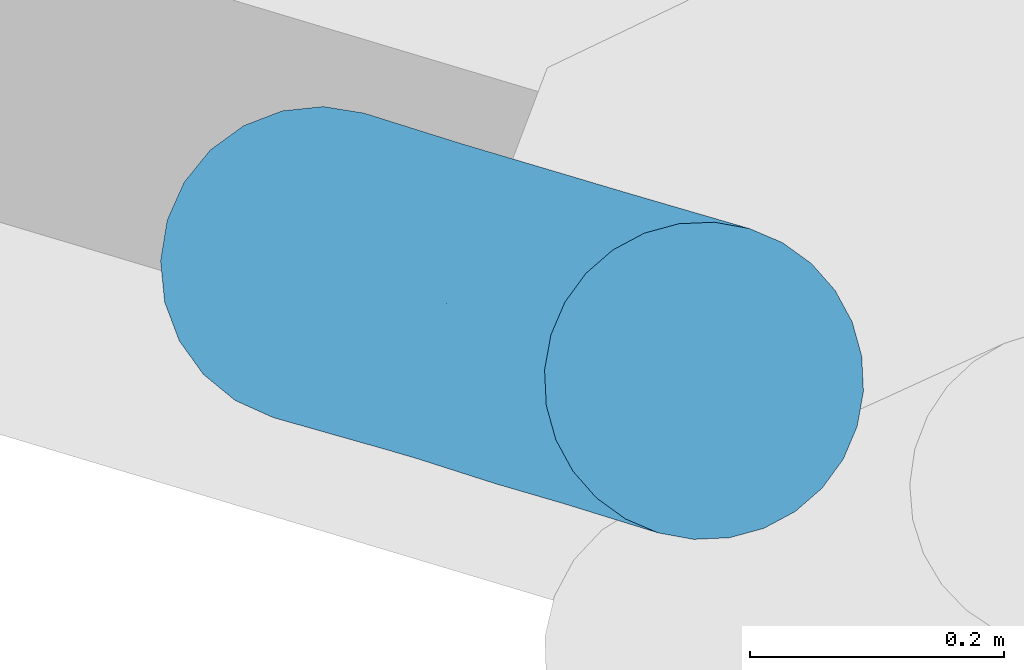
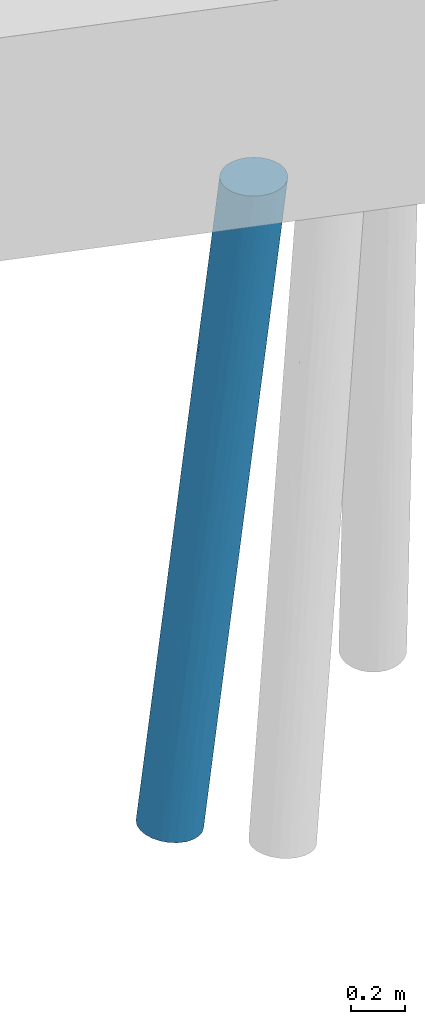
# One storey, part 5 of 46: 1 pile.
"""IFC2X3 building model written with IfcOpenShell, lengths in millimetres."""

from ifc_helpers import new_model, entity, si_unit, converted_unit, derived_unit, direction, frame, origin, place, context, subcontext, project, spatial, faceted_brep, source, transform, mapped, material, type_object, type_shapes, element, save


model = new_model("IFC2X3")

# Units and contexts
model_context = context("Model", 3, precision=0.01, world=origin(), true_north=direction((6.123233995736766e-17, 1.0)))
body_context = subcontext(model_context, "Body", "Model", "MODEL_VIEW")
ifc_project = project(units=[si_unit("LENGTHUNIT", "METRE", prefix="MILLI"), converted_unit("PLANEANGLEUNIT", "DEGREE", entity("IfcPlaneAngleMeasure", 0.017453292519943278), si_unit("PLANEANGLEUNIT", "RADIAN"), dimensions=[0, 0, 0, 0, 0, 0, 0]), si_unit("AREAUNIT", "SQUARE_METRE"), derived_unit("THERMALTRANSMITTANCEUNIT", [(si_unit("MASSUNIT", "GRAM", prefix="KILO"), 1), (si_unit("THERMODYNAMICTEMPERATUREUNIT", "KELVIN"), -1), (si_unit("TIMEUNIT", "SECOND"), -3)])], contexts=[model_context])

# Site, building, storey
site_placement = place(None, frame((-72937.88054949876, 11621.45624098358, 0.0), z_axis=(0.0, 0.0, 1.0), x_axis=(0.9346418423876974, -0.35559053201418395, 0.0)))
site = spatial("IfcSite", under=ifc_project, at=site_placement, Name="Default", CompositionType="ELEMENT")
building_placement = place(site_placement, origin())
building = spatial("IfcBuilding", under=site, at=building_placement, CompositionType="ELEMENT")
storey_placement = place(building_placement, origin())
storey = spatial("IfcBuildingStorey", under=building, at=storey_placement, Name="00 begane grond", CompositionType="ELEMENT", Elevation=0.0)

# Pile
ifc_material = material(Name="beton_gewapend_prefab-element_c45/55")
type_product = type_object("IfcTypeProduct", Name="Type 01", material=ifc_material)
shared_shape = source(origin(), body_context, "Body", "Brep", [
    faceted_brep([(124.838162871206, -27.815116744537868, -1150.0), (115.53639022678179, -54.2354673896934, -1150.0), (72.36643070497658, -41.239861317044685, -1587.2480771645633), (-111.09194578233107, -54.23546738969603, -1150.0), (-165.1894529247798, -41.33003827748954, -1588.444859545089), (-182.07875772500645, -65.1457063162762, -1842.6627389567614), (-30.14575159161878, -64.60051474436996, -2410.3553271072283), (32.98344934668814, -64.94314047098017, -1840.3127773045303), (15.031797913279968, -88.27496307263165, -1836.1297740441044), (41.77006032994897, 0.0, -1925.9925992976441), (100.55257203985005, -77.9362252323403, -1150.0), (80.6380595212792, -97.7289353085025, -1150.0), (-180.54618184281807, -99.16916754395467, -3483.986786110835), (-108.1734310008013, -106.74566752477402, -2732.5343267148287), (-175.6519081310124, -115.48494156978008, -3184.0354063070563), (-42.91884640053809, -117.90464735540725, -1932.203812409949), (56.79144948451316, -112.62110848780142, -1150.0), (30.20851053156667, -121.8659890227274, -1150.0), (-120.39371842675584, -27.81511674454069, -1150.0), (-242.98263969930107, -88.62069146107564, -2558.5627355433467), (-162.25875578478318, -88.50075404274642, -1830.9574517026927), (-245.70385641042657, -64.88368548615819, -2413.843724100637), (-194.4421984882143, -32.35238063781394, -4013.333582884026), (-133.56769714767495, -28.49629953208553, -3474.2266886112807), (-151.93048965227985, -53.33845094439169, -3561.073967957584), (12.222467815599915, -106.275938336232, -1655.8961403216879), (-23.42762089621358, -124.20079095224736, -1508.642990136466), (-80.64748703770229, -124.2366812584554, -1770.9263967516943), (-73.06982999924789, -124.27812918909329, -1949.101189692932), (-265.024992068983, -123.93060767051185, -3407.479310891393), (-314.4444444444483, -125.0, -4000.0), (-240.21076201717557, -123.93060767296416, -3479.642475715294), (-190.20897761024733, 0.0, -4013.803940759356), (-117.33081280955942, 0.0, -3357.900457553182), (-25.764066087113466, -121.86598902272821, -1150.0), (2.2222222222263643, -125.0, -1150.0), (-317.9689709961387, -23.60182842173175, -2920.157783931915), (-375.26894382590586, -28.366113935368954, -3445.0277270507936), (-326.96702366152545, -47.83542903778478, -3066.9425894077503), (-73.70805836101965, -23.187811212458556, -2945.6497765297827), (16.085837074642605, -41.18767244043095, -2093.938466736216), (-39.92708990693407, -41.47720200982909, -2597.136214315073), (-183.66520352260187, -123.01104339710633, -3024.1067526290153), (-196.28435151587, -123.47165352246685, -2760.09510592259), (-252.3267110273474, -108.25317547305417, -4006.901970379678), (-226.59670338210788, -88.38834764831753, -4009.7608601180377), (-206.8533741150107, -62.49999999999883, -4011.9545633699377), (-148.27550792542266, -76.09517863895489, -3402.494577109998), (-119.74622127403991, -106.37235269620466, -1653.229951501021), (-99.40312932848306, -118.21391771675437, -1696.7443345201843), (-52.347005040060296, -112.62110848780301, -1150.0), (-238.2779479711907, -106.2597512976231, -2718.3665211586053), (-185.92128902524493, -102.46025049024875, -2194.904710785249), (-42.820885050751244, -102.58547775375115, -2202.1491422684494), (-156.2252162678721, -118.09364807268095, -2204.9892079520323), (-264.72929865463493, -115.48494155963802, -3119.3954545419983), (-319.0271104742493, -115.48494156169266, -3608.075760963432), (-76.19361507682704, -97.72893530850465, -1150.0), (-96.10812759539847, -77.93622523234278, -1150.0), (-44.45199380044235, 0.0, -2701.9910864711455), (-1.3402226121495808, 0.0, -2313.985145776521), (-292.9202820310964, -72.79893776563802, -2886.1326580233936), (-292.6922084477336, -91.63383624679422, -3034.349570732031), (-282.2899395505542, -120.74072828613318, -4003.5727227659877), (-227.3188222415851, -115.48494156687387, -3649.037633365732), (-209.76851175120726, 0.0, -1925.9934634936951), (-221.60043037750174, -41.38232604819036, -2096.3096577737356), (-376.56217786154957, -108.25317547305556, -3993.0980296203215), (-346.59894933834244, -120.74072828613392, -3996.4272772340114), (-66.21715172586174, -88.15377228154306, -2568.4634430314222), (-129.97696806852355, -118.32629651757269, -2704.7019880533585), (-123.5470158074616, 0.0, -1150.0), (-377.52744650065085, -52.97984274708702, -3542.5215927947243), (-345.70385271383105, -76.09517862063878, -3383.3196685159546), (-275.8885685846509, -42.22399193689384, -2587.6075033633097), (-422.0355147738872, -62.50000000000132, -3988.0454366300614), (-402.29218550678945, -88.38834764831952, -3990.239139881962), (-331.8470727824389, -99.16916753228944, -3467.5525053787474), (-132.4434459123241, -124.68323586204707, -2281.458802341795), (-96.52658231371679, -47.8354290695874, -3084.4998642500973), (-89.11715414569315, -71.65077909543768, -2899.5648185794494), (127.99146025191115, 0.0, -1150.0), (-252.87925972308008, 0.0, -2313.9901952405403), (-122.93481462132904, -90.89446365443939, -3053.447507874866), (-434.4466904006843, -32.352380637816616, -3986.6664171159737), (-438.679911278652, 0.0, -3986.1960592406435), (-141.73877836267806, -124.16072599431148, -2576.5969257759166), (-210.06991733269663, -117.23436667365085, -2667.8819222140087), (-295.9900076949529, 0.0, -2701.9869269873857), (-367.3349594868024, 0.0, -3344.0914931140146), (124.83816287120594, 27.815116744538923, -1150.0), (115.53639022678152, 54.23546738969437, -1150.0), (100.55257203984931, 77.93622523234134, -1150.0), (80.63805952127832, 97.7289353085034, -1150.0), (56.79144948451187, 112.62110848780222, -1150.0), (30.20851053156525, 121.86598902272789, -1150.0), (2.22222222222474, 125.0, -1150.0), (-25.76406608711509, 121.86598902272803, -1150.0), (-52.34700504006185, 112.62110848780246, -1150.0), (-76.1936150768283, 97.72893530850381, -1150.0), (-96.10812759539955, 77.93622523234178, -1150.0), (-111.09194578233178, 54.23546738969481, -1150.0), (-120.39371842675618, 27.815116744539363, -1150.0), (-96.52658225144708, 47.83542901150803, -3084.4998639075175), (-133.5676976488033, 28.496299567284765, -3474.2266930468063), (-151.9304895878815, 53.338451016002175, -3561.073967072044), (-176.7825211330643, 87.58614607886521, -1953.453255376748), (-126.78568187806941, 88.44799753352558, -1511.2211246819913), (-140.32328536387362, 105.94191584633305, -1832.1538289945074), (-185.53475823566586, 41.3488976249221, -1771.6124540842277), (-98.5233768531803, 124.24251446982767, -1932.2861052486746), (-159.3540506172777, 67.83984168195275, -1653.46778938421), (-221.49211536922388, 66.66107193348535, -2205.8974607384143), (-402.2921855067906, 88.38834764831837, -3990.239139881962), (-352.8086337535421, 76.09517892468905, -3447.262699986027), (-312.10423006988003, 99.16916769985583, -3289.866922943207), (-282.2899395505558, 120.74072828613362, -4003.5727227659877), (-314.44444444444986, 125.0, -4000.0), (-235.4135805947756, 123.93060766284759, -3436.467843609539), (-362.94366171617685, 26.27355326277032, -3329.855963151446), (-328.2998352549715, 47.83542988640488, -3078.9378969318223), (-384.2243809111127, 47.83542945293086, -3582.258806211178), (-376.562177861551, 108.25317547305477, -3993.0980296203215), (-180.54618171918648, 99.16916751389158, -3483.9867853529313), (-148.27550783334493, 76.0951785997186, -3402.49457655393), (-226.59670338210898, 88.38834764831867, -4009.7608601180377), (-163.5203657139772, 118.46525212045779, -2280.489865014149), (-104.92272192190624, 118.27912572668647, -1748.143371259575), (-89.11715398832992, 71.6507788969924, -2899.5648184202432), (-39.927089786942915, 41.4772017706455, -2597.1362139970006), (-274.28881423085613, 82.15433137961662, -2785.484682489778), (-221.11735801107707, 106.04994682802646, -2560.8655013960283), (-422.03551477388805, 62.49999999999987, -3988.0454366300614), (-434.4466904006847, 32.35238063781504, -3986.6664171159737), (-180.90977316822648, 122.95522291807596, -3002.0876370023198), (-141.73877802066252, 124.16072595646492, -2576.596925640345), (-129.97696798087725, 118.32629644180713, -2704.701989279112), (-180.2811496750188, 124.04234815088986, -2652.685215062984), (-242.59310629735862, 123.930607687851, -3205.592340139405), (-232.5682987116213, 117.68101498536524, -2881.4778788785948), (-301.7888662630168, 115.48494161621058, -3452.931564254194), (-346.598949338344, 120.7407282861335, -3996.4272772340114), (-206.85337411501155, 62.50000000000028, -4011.9545633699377), (-42.918846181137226, 117.90464729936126, -1932.2038118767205), (-83.49872980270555, 124.18127902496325, -2050.8284888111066), (-29.55955353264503, 124.19873841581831, -1563.9938530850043), (15.03179802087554, 88.27496298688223, -1836.1297738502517), (32.983449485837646, 64.94314037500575, -1840.3127765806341), (-30.14575143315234, 64.60051457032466, -2410.3553266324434), (-42.820884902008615, 102.58547764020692, -2202.149142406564), (12.222467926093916, 106.27593827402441, -1655.89614023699), (-73.70805863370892, 23.18781108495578, -2945.6497792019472), (16.08583725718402, 41.18767230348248, -2093.9384655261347), (72.36643080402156, 41.2398612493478, -1587.2480764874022), (-221.94118502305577, 91.78881553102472, -2399.105716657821), (-108.17343087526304, 106.7456674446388, -2732.5343267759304), (-66.2171515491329, 88.15377212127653, -2568.463442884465), (-122.93481449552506, 90.89446347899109, -3053.447508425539), (-262.27997921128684, 34.77836369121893, -2443.29023072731), (-227.3188223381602, 115.48494155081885, -3649.037634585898), (-252.32671102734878, 108.25317547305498, -4006.901970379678), (-277.036285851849, 61.03344887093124, -2675.5040755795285), (-194.44219848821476, 32.35238063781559, -4013.333582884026), (-312.1095376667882, 26.52940126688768, -2872.8494770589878), (-175.65190824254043, 115.48494153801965, -3184.035408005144)], [[[0, 1, 2]], [[3, 4, 5]], [[6, 7, 8]], [[9, 0, 2]], [[8, 10, 11]], [[12, 13, 14]], [[15, 16, 17]], [[4, 3, 18]], [[19, 20, 21]], [[22, 23, 24]], [[11, 16, 25]], [[26, 27, 28]], [[29, 30, 31]], [[32, 33, 23]], [[10, 8, 7]], [[34, 27, 35]], [[36, 37, 38]], [[33, 39, 23]], [[40, 6, 41]], [[42, 43, 29]], [[44, 45, 12]], [[20, 5, 21]], [[26, 17, 35]], [[45, 46, 47]], [[48, 49, 50]], [[19, 51, 52]], [[53, 25, 15]], [[46, 24, 47]], [[48, 54, 49]], [[55, 56, 29]], [[57, 58, 20]], [[40, 59, 60, 9]], [[61, 62, 19]], [[2, 7, 40]], [[63, 44, 64]], [[65, 66, 4]], [[3, 5, 58]], [[20, 52, 48]], [[67, 68, 56]], [[29, 43, 55]], [[69, 53, 13]], [[13, 70, 14]], [[18, 71, 65]], [[72, 73, 38]], [[68, 30, 29]], [[74, 36, 38]], [[62, 51, 19]], [[38, 61, 74]], [[37, 72, 38]], [[75, 76, 73]], [[76, 77, 73]], [[57, 20, 48]], [[12, 45, 47]], [[6, 40, 7]], [[78, 54, 43]], [[27, 78, 28]], [[79, 41, 80]], [[81, 0, 9]], [[66, 65, 82]], [[41, 39, 59]], [[13, 12, 83]], [[76, 67, 77]], [[84, 37, 85]], [[21, 61, 19]], [[30, 63, 31]], [[31, 42, 29]], [[47, 80, 83]], [[64, 12, 14]], [[56, 77, 67]], [[51, 62, 77]], [[64, 31, 63]], [[14, 70, 42]], [[1, 10, 7]], [[9, 2, 40]], [[7, 2, 1]], [[6, 8, 69]], [[80, 6, 69]], [[6, 80, 41]], [[65, 4, 18]], [[5, 4, 66]], [[5, 66, 21]], [[58, 5, 20]], [[74, 21, 66]], [[61, 38, 73]], [[78, 43, 86]], [[55, 87, 51]], [[83, 80, 69]], [[79, 80, 47]], [[83, 69, 13]], [[47, 83, 12]], [[53, 69, 8]], [[70, 15, 86]], [[25, 53, 8]], [[70, 53, 15]], [[11, 25, 8]], [[15, 25, 16]], [[39, 41, 79]], [[59, 40, 41]], [[23, 39, 79]], [[33, 59, 39]], [[24, 23, 79]], [[32, 23, 22]], [[47, 24, 79]], [[22, 24, 46]], [[61, 21, 74]], [[62, 73, 77]], [[73, 62, 61]], [[51, 77, 55]], [[87, 55, 43]], [[19, 52, 20]], [[51, 54, 52]], [[27, 49, 54]], [[54, 48, 52]], [[57, 48, 50]], [[70, 13, 53]], [[42, 70, 86]], [[43, 42, 86]], [[14, 42, 31]], [[29, 56, 68]], [[74, 66, 82]], [[88, 89, 36, 82]], [[37, 36, 89]], [[85, 37, 89]], [[72, 84, 75]], [[84, 72, 37]], [[73, 72, 75]], [[43, 54, 87]], [[54, 51, 87]], [[36, 74, 82]], [[77, 56, 55]], [[28, 86, 15]], [[54, 78, 27]], [[86, 28, 78]], [[26, 15, 17]], [[27, 26, 35]], [[15, 26, 28]], [[12, 64, 44]], [[31, 64, 14]], [[27, 34, 49]], [[50, 49, 34]], [[34, 35, 17, 16, 11, 10, 1, 0, 81, 90, 91, 92, 93, 94, 95, 96, 97, 98, 99, 100, 101, 102, 71, 18, 3, 58, 57, 50]], [[103, 104, 105]], [[90, 81, 9]], [[106, 107, 108]], [[109, 102, 101]], [[110, 97, 96]], [[111, 112, 109]], [[113, 114, 115]], [[116, 117, 118]], [[98, 108, 99]], [[119, 120, 121]], [[113, 115, 122]], [[106, 112, 111]], [[123, 124, 125]], [[110, 126, 127]], [[119, 85, 89]], [[65, 71, 102]], [[103, 128, 129]], [[115, 130, 131]], [[108, 127, 126]], [[132, 133, 121]], [[134, 135, 136]], [[137, 138, 139]], [[140, 141, 122]], [[142, 125, 124]], [[143, 144, 145]], [[146, 147, 148]], [[146, 149, 150]], [[130, 115, 114]], [[151, 104, 103]], [[143, 136, 144]], [[9, 152, 153]], [[140, 122, 115]], [[143, 95, 94]], [[98, 97, 127]], [[92, 146, 93]], [[138, 140, 139]], [[131, 130, 154]], [[129, 151, 103]], [[117, 141, 138]], [[118, 117, 138]], [[155, 156, 157]], [[96, 95, 145]], [[109, 158, 65]], [[116, 159, 160]], [[143, 149, 136]], [[153, 91, 90]], [[105, 124, 103]], [[112, 158, 109]], [[146, 148, 156]], [[100, 111, 101]], [[128, 157, 156]], [[147, 92, 91]], [[91, 153, 147]], [[150, 93, 146]], [[156, 155, 149]], [[161, 158, 112]], [[65, 102, 109]], [[113, 132, 114]], [[139, 140, 115]], [[125, 160, 123]], [[152, 9, 60]], [[162, 104, 32]], [[148, 128, 156]], [[138, 137, 134]], [[163, 158, 120]], [[159, 118, 164]], [[121, 114, 132]], [[130, 161, 112]], [[161, 114, 120]], [[112, 106, 154]], [[139, 115, 131]], [[138, 141, 140]], [[163, 120, 119]], [[158, 88, 82, 65]], [[159, 123, 160]], [[155, 157, 123]], [[9, 153, 90]], [[147, 153, 152]], [[147, 152, 148]], [[92, 147, 146]], [[129, 148, 152]], [[128, 103, 124]], [[131, 126, 139]], [[135, 134, 137]], [[108, 126, 131]], [[110, 144, 137]], [[139, 126, 137]], [[110, 137, 126]], [[128, 148, 129]], [[157, 124, 123]], [[124, 157, 128]], [[155, 123, 164]], [[136, 155, 164]], [[156, 149, 146]], [[136, 149, 155]], [[150, 143, 94]], [[143, 150, 149]], [[93, 150, 94]], [[101, 111, 109]], [[129, 152, 60]], [[59, 33, 151]], [[104, 151, 33]], [[32, 104, 33]], [[105, 162, 142]], [[162, 105, 104]], [[124, 105, 142]], [[98, 127, 108]], [[97, 110, 127]], [[134, 164, 118]], [[136, 135, 144]], [[164, 134, 136]], [[138, 134, 118]], [[133, 85, 119]], [[114, 121, 120]], [[133, 119, 121]], [[163, 89, 88]], [[89, 163, 119]], [[88, 158, 163]], [[59, 151, 129]], [[60, 59, 129]], [[100, 99, 107]], [[111, 100, 107]], [[154, 108, 131]], [[108, 107, 99]], [[111, 107, 106]], [[137, 144, 135]], [[145, 110, 96]], [[143, 145, 95]], [[110, 145, 144]], [[118, 159, 116]], [[123, 159, 164]], [[114, 161, 130]], [[158, 161, 120]], [[112, 154, 130]], [[108, 154, 106]], [[141, 117, 116, 160, 125, 142, 162, 32, 22, 46, 45, 44, 63, 30, 68, 67, 76, 75, 84, 85, 133, 132, 113, 122]]]),
])
type_shapes(type_product, [shared_shape])
pile_placement = place(storey_placement, frame((61700.586182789, 14641.237462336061, 0.0), z_axis=(0.0, 0.0, 1.0), x_axis=(0.9973760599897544, 0.07239471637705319, 0.0)))
element("IfcPile", 1, at=pile_placement, inside=storey, type_object=type_product, material=ifc_material, Name="17.21_Prefab funderingspaal rond", ObjectType="prefab paal rond", PredefinedType="NOTDEFINED", context=body_context, shape_type="MappedRepresentation", body=[
    mapped(shared_shape, transform((0.0, 0.0, 0.0), scale=1.0)),
])

save(model, "model.ifc")
